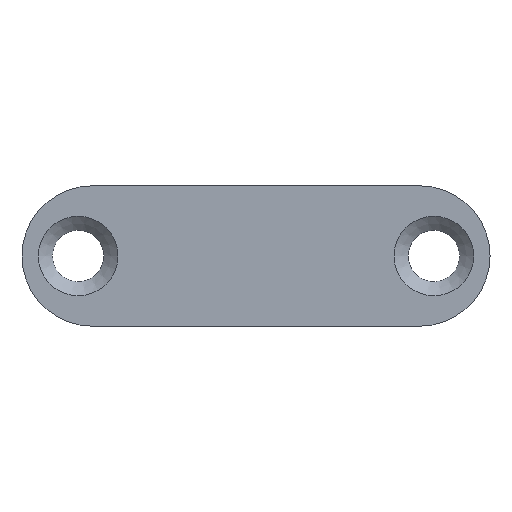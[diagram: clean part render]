
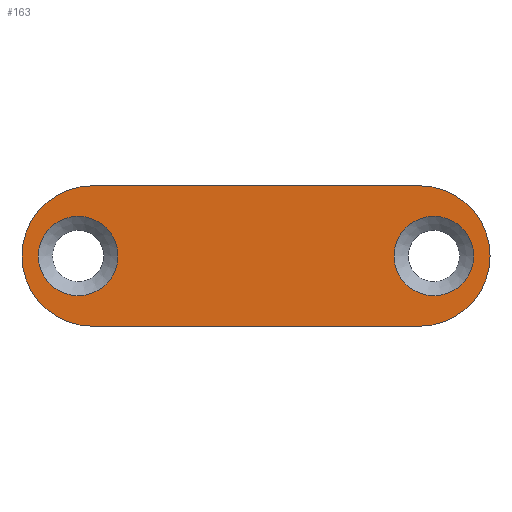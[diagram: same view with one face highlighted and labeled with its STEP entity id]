
A CAD part, top view. The second image highlights one B-rep face of the part: STEP entity #163.
In plain terms, the highlighted planar face has unit normal (0, 0, 1).
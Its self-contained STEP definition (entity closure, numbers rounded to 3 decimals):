
#17=PLANE('',#185);
#22=LINE('',#267,#30);
#26=LINE('',#277,#34);
#30=VECTOR('',#220,35.);
#34=VECTOR('',#232,35.);
#43=FACE_BOUND('',#70,.T.);
#44=FACE_BOUND('',#71,.T.);
#55=FACE_OUTER_BOUND('',#69,.T.);
#69=EDGE_LOOP('',(#141,#142,#143,#144));
#70=EDGE_LOOP('',(#145));
#71=EDGE_LOOP('',(#146));
#75=CIRCLE('',#168,4.25);
#78=CIRCLE('',#173,4.25);
#82=CIRCLE('',#179,7.5);
#84=CIRCLE('',#183,7.5);
#85=VERTEX_POINT('',#239);
#88=VERTEX_POINT('',#247);
#93=VERTEX_POINT('',#258);
#94=VERTEX_POINT('',#260);
#96=VERTEX_POINT('',#266);
#98=VERTEX_POINT('',#272);
#99=EDGE_CURVE('',#85,#85,#75,.T.);
#102=EDGE_CURVE('',#88,#88,#78,.T.);
#107=EDGE_CURVE('',#94,#93,#82,.T.);
#110=EDGE_CURVE('',#96,#94,#22,.T.);
#113=EDGE_CURVE('',#98,#96,#84,.T.);
#116=EDGE_CURVE('',#93,#98,#26,.T.);
#141=ORIENTED_EDGE('',*,*,#116,.T.);
#142=ORIENTED_EDGE('',*,*,#113,.T.);
#143=ORIENTED_EDGE('',*,*,#110,.T.);
#144=ORIENTED_EDGE('',*,*,#107,.T.);
#145=ORIENTED_EDGE('',*,*,#99,.T.);
#146=ORIENTED_EDGE('',*,*,#102,.T.);
#163=ADVANCED_FACE('',(#55,#43,#44),#17,.T.);
#168=AXIS2_PLACEMENT_3D('',#240,#191,#192);
#173=AXIS2_PLACEMENT_3D('',#248,#201,#202);
#179=AXIS2_PLACEMENT_3D('',#261,#214,#215);
#183=AXIS2_PLACEMENT_3D('',#273,#226,#227);
#185=AXIS2_PLACEMENT_3D('',#278,#233,#234);
#191=DIRECTION('center_axis',(0.,0.,-1.));
#192=DIRECTION('ref_axis',(1.,0.,0.));
#201=DIRECTION('center_axis',(0.,0.,-1.));
#202=DIRECTION('ref_axis',(1.,0.,0.));
#214=DIRECTION('center_axis',(0.,0.,1.));
#215=DIRECTION('ref_axis',(0.,1.,0.));
#220=DIRECTION('',(-1.,0.,0.));
#226=DIRECTION('center_axis',(0.,0.,1.));
#227=DIRECTION('ref_axis',(0.,-1.,0.));
#232=DIRECTION('',(1.,0.,0.));
#233=DIRECTION('center_axis',(0.,0.,1.));
#234=DIRECTION('ref_axis',(1.,0.,0.));
#239=CARTESIAN_POINT('',(-14.75,0.,1.3));
#240=CARTESIAN_POINT('Origin',(-19.,0.,1.3));
#247=CARTESIAN_POINT('',(23.25,0.,1.3));
#248=CARTESIAN_POINT('Origin',(19.,0.,1.3));
#258=CARTESIAN_POINT('',(-17.5,-7.5,1.3));
#260=CARTESIAN_POINT('',(-17.5,7.5,1.3));
#261=CARTESIAN_POINT('Origin',(-17.5,0.,1.3));
#266=CARTESIAN_POINT('',(17.5,7.5,1.3));
#267=CARTESIAN_POINT('',(17.5,7.5,1.3));
#272=CARTESIAN_POINT('',(17.5,-7.5,1.3));
#273=CARTESIAN_POINT('Origin',(17.5,0.,1.3));
#277=CARTESIAN_POINT('',(-17.5,-7.5,1.3));
#278=CARTESIAN_POINT('Origin',(0.,0.,
1.3));
